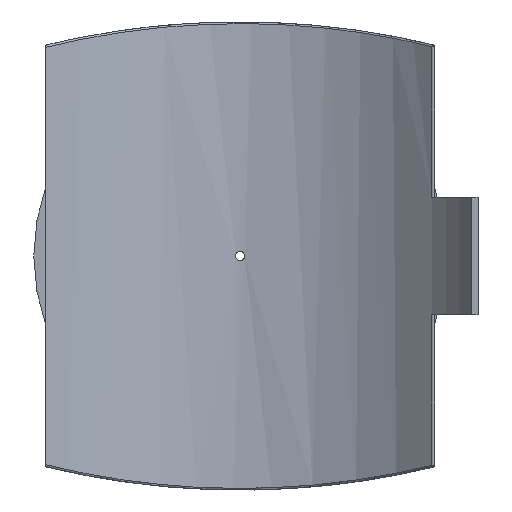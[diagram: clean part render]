
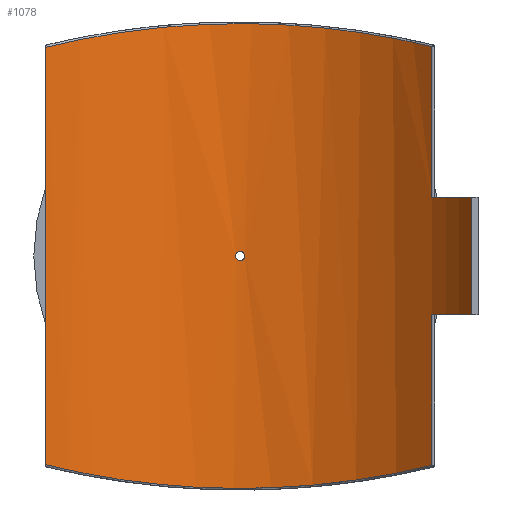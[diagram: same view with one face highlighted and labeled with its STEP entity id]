
A CAD part, front view. The second image highlights one B-rep face of the part: STEP entity #1078.
In plain terms, the highlighted cylindrical face has radius 315 mm (diameter 630 mm), a partial arc.
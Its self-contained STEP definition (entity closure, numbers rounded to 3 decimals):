
#55=FACE_BOUND('',#355,.T.);
#109=B_SPLINE_CURVE_WITH_KNOTS('',3,(#2210,#2211,#2212,#2213,#2214,#2215,
#2216,#2217,#2218,#2219),.UNSPECIFIED.,.F.,.F.,(4,1,1,1,1,1,1,4),(-56.388,
-49.382,-42.376,-35.37,-28.364,
-21.358,-14.352,-7.346),.UNSPECIFIED.);
#110=B_SPLINE_CURVE_WITH_KNOTS('',3,(#2228,#2229,#2230,#2231,#2232,#2233,
#2234,#2235,#2236,#2237),.UNSPECIFIED.,.F.,.F.,(4,1,1,1,1,1,1,4),(-53.33,
-46.324,-39.318,-32.312,-25.306,
-18.301,-11.295,-4.289),.UNSPECIFIED.);
#111=B_SPLINE_CURVE_WITH_KNOTS('',3,(#2240,#2241,#2242,#2243,#2244,#2245,
#2246,#2247,#2248,#2249),.UNSPECIFIED.,.F.,.F.,(4,2,2,2,4),(0.,0.196,
0.392,0.588,0.784),.UNSPECIFIED.);
#112=B_SPLINE_CURVE_WITH_KNOTS('',3,(#2250,#2251,#2252,#2253,#2254,#2255,
#2256,#2257,#2258,#2259,#2260,#2261,#2262,#2263,#2264,#2265,#2266,#2267,
#2268,#2269,#2270,#2271,#2272,#2273,#2274,#2275),.UNSPECIFIED.,.F.,.F.,
(4,2,2,2,2,2,2,2,2,2,2,2,4),(0.784,0.979,1.175,
1.371,1.567,1.763,1.959,2.155,
2.351,2.546,2.742,2.938,3.134),
 .UNSPECIFIED.);
#133=LINE('',#1615,#184);
#144=LINE('',#1899,#195);
#151=LINE('',#2224,#202);
#152=LINE('',#2227,#203);
#184=VECTOR('',#1292,10.);
#195=VECTOR('',#1331,10.);
#202=VECTOR('',#1368,10.);
#203=VECTOR('',#1371,10.);
#244=CYLINDRICAL_SURFACE('',#1175,315.);
#288=FACE_OUTER_BOUND('',#354,.T.);
#354=EDGE_LOOP('',(#839,#840,#841,#842,#843,#844,#845,#846));
#355=EDGE_LOOP('',(#847,#848));
#449=CIRCLE('',#1176,315.);
#450=CIRCLE('',#1177,315.);
#510=VERTEX_POINT('',#1606);
#513=VERTEX_POINT('',#1613);
#533=VERTEX_POINT('',#1892);
#536=VERTEX_POINT('',#1897);
#549=VERTEX_POINT('',#2193);
#550=VERTEX_POINT('',#2221);
#551=VERTEX_POINT('',#2223);
#552=VERTEX_POINT('',#2226);
#553=VERTEX_POINT('',#2238);
#554=VERTEX_POINT('',#2239);
#613=EDGE_CURVE('',#513,#510,#133,.T.);
#643=EDGE_CURVE('',#536,#533,#144,.T.);
#666=EDGE_CURVE('',#549,#536,#109,.T.);
#667=EDGE_CURVE('',#550,#513,#449,.T.);
#668=EDGE_CURVE('',#550,#551,#151,.T.);
#669=EDGE_CURVE('',#533,#551,#450,.T.);
#670=EDGE_CURVE('',#552,#549,#152,.T.);
#671=EDGE_CURVE('',#510,#552,#110,.T.);
#672=EDGE_CURVE('',#553,#554,#111,.T.);
#673=EDGE_CURVE('',#554,#553,#112,.T.);
#839=ORIENTED_EDGE('',*,*,#667,.F.);
#840=ORIENTED_EDGE('',*,*,#668,.T.);
#841=ORIENTED_EDGE('',*,*,#669,.F.);
#842=ORIENTED_EDGE('',*,*,#643,.F.);
#843=ORIENTED_EDGE('',*,*,#666,.F.);
#844=ORIENTED_EDGE('',*,*,#670,.F.);
#845=ORIENTED_EDGE('',*,*,#671,.F.);
#846=ORIENTED_EDGE('',*,*,#613,.F.);
#847=ORIENTED_EDGE('',*,*,#672,.T.);
#848=ORIENTED_EDGE('',*,*,#673,.T.);
#1078=ADVANCED_FACE('',(#288,#55),#244,.F.);
#1175=AXIS2_PLACEMENT_3D('',#2220,#1364,#1365);
#1176=AXIS2_PLACEMENT_3D('',#2222,#1366,#1367);
#1177=AXIS2_PLACEMENT_3D('',#2225,#1369,#1370);
#1292=DIRECTION('',(0.,0.,-1.));
#1331=DIRECTION('',(0.,0.,-1.));
#1364=DIRECTION('center_axis',(0.,0.,1.));
#1365=DIRECTION('ref_axis',(-1.,0.,0.));
#1366=DIRECTION('center_axis',(0.,0.,1.));
#1367=DIRECTION('ref_axis',(-0.831,-0.557,0.));
#1368=DIRECTION('',(0.,0.,1.));
#1369=DIRECTION('center_axis',(0.,0.,-1.));
#1370=DIRECTION('ref_axis',(-0.831,-0.557,0.));
#1371=DIRECTION('',(0.,0.,1.));
#1606=CARTESIAN_POINT('',(217.121,228.218,-236.928));
#1613=CARTESIAN_POINT('',(217.121,228.218,-66.25));
#1615=CARTESIAN_POINT('',(217.121,228.218,0.));
#1892=CARTESIAN_POINT('',(217.121,228.218,66.25));
#1897=CARTESIAN_POINT('',(217.121,228.218,236.928));
#1899=CARTESIAN_POINT('',(217.121,228.218,0.));
#2193=CARTESIAN_POINT('',(-220.5,224.955,236.098));
#2210=CARTESIAN_POINT('Ctrl Pts',(-220.5,224.955,236.098));
#2211=CARTESIAN_POINT('Ctrl Pts',(-204.177,240.955,240.14));
#2212=CARTESIAN_POINT('Ctrl Pts',(-168.03,269.405,248.133));
#2213=CARTESIAN_POINT('Ctrl Pts',(-105.5,299.512,257.715));
#2214=CARTESIAN_POINT('Ctrl Pts',(-37.438,315.362,263.12));
#2215=CARTESIAN_POINT('Ctrl Pts',(32.659,315.896,263.308));
#2216=CARTESIAN_POINT('Ctrl Pts',(100.978,301.067,258.233));
#2217=CARTESIAN_POINT('Ctrl Pts',(163.983,271.891,248.89));
#2218=CARTESIAN_POINT('Ctrl Pts',(200.561,243.972,240.962));
#2219=CARTESIAN_POINT('Ctrl Pts',(217.121,228.218,236.928));
#2220=CARTESIAN_POINT('Origin',(0.,0.,0.));
#2221=CARTESIAN_POINT('',(261.617,175.446,-66.25));
#2222=CARTESIAN_POINT('Origin',(0.,0.,
-66.25));
#2223=CARTESIAN_POINT('',(261.617,175.446,66.25));
#2224=CARTESIAN_POINT('',(261.617,175.446,0.));
#2225=CARTESIAN_POINT('Origin',(0.,0.,
66.25));
#2226=CARTESIAN_POINT('',(-220.5,224.955,-236.098));
#2227=CARTESIAN_POINT('',(-220.5,224.955,0.));
#2228=CARTESIAN_POINT('Ctrl Pts',(217.121,228.218,-236.928));
#2229=CARTESIAN_POINT('Ctrl Pts',(200.561,243.972,-240.962));
#2230=CARTESIAN_POINT('Ctrl Pts',(163.982,271.891,-248.89));
#2231=CARTESIAN_POINT('Ctrl Pts',(100.978,301.067,-258.233));
#2232=CARTESIAN_POINT('Ctrl Pts',(32.659,315.895,-263.307));
#2233=CARTESIAN_POINT('Ctrl Pts',(-37.437,315.362,-263.12));
#2234=CARTESIAN_POINT('Ctrl Pts',(-105.5,299.512,-257.715));
#2235=CARTESIAN_POINT('Ctrl Pts',(-168.03,269.405,-248.133));
#2236=CARTESIAN_POINT('Ctrl Pts',(-204.177,240.955,-240.14));
#2237=CARTESIAN_POINT('Ctrl Pts',(-220.5,224.955,-236.098));
#2238=CARTESIAN_POINT('',(5.2,314.957,0.));
#2239=CARTESIAN_POINT('',(0.,315.,-5.2));
#2240=CARTESIAN_POINT('Ctrl Pts',(5.2,314.957,0.));
#2241=CARTESIAN_POINT('Ctrl Pts',(5.2,314.957,-0.653));
#2242=CARTESIAN_POINT('Ctrl Pts',(5.07,314.959,-1.349));
#2243=CARTESIAN_POINT('Ctrl Pts',(4.539,314.967,-2.631));
#2244=CARTESIAN_POINT('Ctrl Pts',(4.139,314.973,-3.215));
#2245=CARTESIAN_POINT('Ctrl Pts',(3.215,314.984,-4.139));
#2246=CARTESIAN_POINT('Ctrl Pts',(2.631,314.99,-4.539));
#2247=CARTESIAN_POINT('Ctrl Pts',(1.349,314.998,-5.07));
#2248=CARTESIAN_POINT('Ctrl Pts',(0.653,315.,-5.2));
#2249=CARTESIAN_POINT('Ctrl Pts',(0.,315.,-5.2));
#2250=CARTESIAN_POINT('Ctrl Pts',(0.,315.,-5.2));
#2251=CARTESIAN_POINT('Ctrl Pts',(-0.653,315.,-5.2));
#2252=CARTESIAN_POINT('Ctrl Pts',(-1.349,314.998,-5.07));
#2253=CARTESIAN_POINT('Ctrl Pts',(-2.631,314.99,-4.539));
#2254=CARTESIAN_POINT('Ctrl Pts',(-3.215,314.984,-4.139));
#2255=CARTESIAN_POINT('Ctrl Pts',(-4.139,314.973,-3.215));
#2256=CARTESIAN_POINT('Ctrl Pts',(-4.539,314.967,-2.631));
#2257=CARTESIAN_POINT('Ctrl Pts',(-5.07,314.959,-1.349));
#2258=CARTESIAN_POINT('Ctrl Pts',(-5.2,314.957,-0.653));
#2259=CARTESIAN_POINT('Ctrl Pts',(-5.2,314.957,0.653));
#2260=CARTESIAN_POINT('Ctrl Pts',(-5.07,314.959,1.349));
#2261=CARTESIAN_POINT('Ctrl Pts',(-4.539,314.967,2.631));
#2262=CARTESIAN_POINT('Ctrl Pts',(-4.139,314.973,3.215));
#2263=CARTESIAN_POINT('Ctrl Pts',(-3.215,314.984,4.139));
#2264=CARTESIAN_POINT('Ctrl Pts',(-2.631,314.99,4.539));
#2265=CARTESIAN_POINT('Ctrl Pts',(-1.349,314.998,5.07));
#2266=CARTESIAN_POINT('Ctrl Pts',(-0.653,315.,5.2));
#2267=CARTESIAN_POINT('Ctrl Pts',(0.653,315.,5.2));
#2268=CARTESIAN_POINT('Ctrl Pts',(1.349,314.998,5.07));
#2269=CARTESIAN_POINT('Ctrl Pts',(2.631,314.99,4.539));
#2270=CARTESIAN_POINT('Ctrl Pts',(3.215,314.984,4.139));
#2271=CARTESIAN_POINT('Ctrl Pts',(4.139,314.973,3.215));
#2272=CARTESIAN_POINT('Ctrl Pts',(4.539,314.967,2.631));
#2273=CARTESIAN_POINT('Ctrl Pts',(5.07,314.959,1.349));
#2274=CARTESIAN_POINT('Ctrl Pts',(5.2,314.957,0.653));
#2275=CARTESIAN_POINT('Ctrl Pts',(5.2,314.957,0.));
